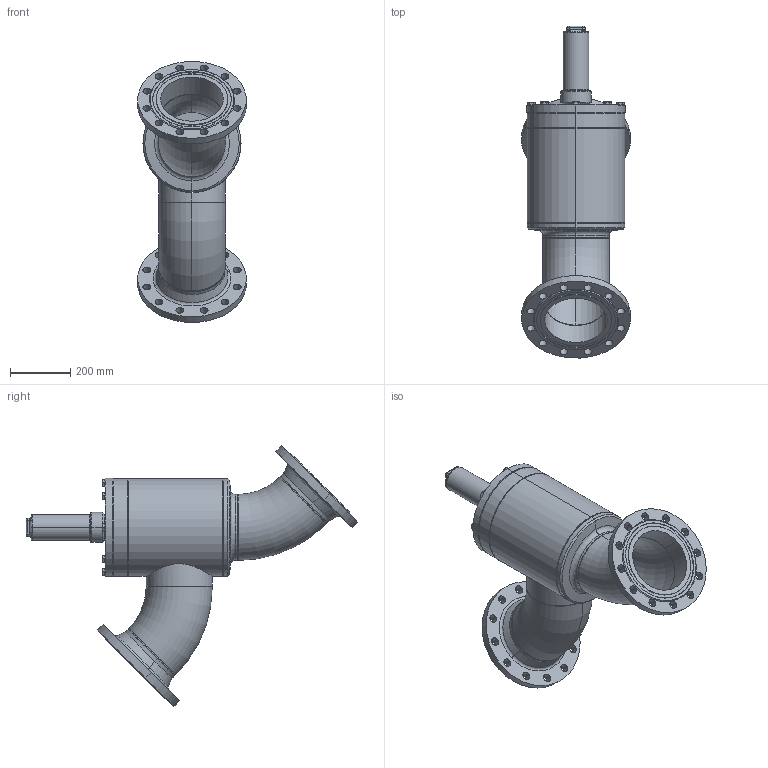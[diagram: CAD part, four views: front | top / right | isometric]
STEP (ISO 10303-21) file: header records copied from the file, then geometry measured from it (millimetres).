
FILE_DESCRIPTION (( 'STEP AP214' ), '1' );
FILE_NAME ('RVA29320C23-DN200_DIN-FL-N_PS25.STEP', '2006-04-28T05:34:59', ( 'Herr Grams' ), ( 'AWP GmbH' ), 'SwSTEP 2.0', 'SolidWorks 2002296', '' );
FILE_SCHEMA (( 'AUTOMOTIVE_DESIGN' ));
Length unit declared in the file: millimetre
Products named in the file (22): RVA29320C23-DN200_DIN-FL-N_PS25; Kappe16402_DN200-350_Standard; RVA29300B23_Deck-Schr-DN200_Standard; Deckel-kpl29300B2-DN200_Standard; bead-deck263-200_Standard; Scheibe f Deckel16300-DN200_Standard; Buchse f Deckel29300-DN200_Standard; Sechskantschraube-DIN933_M16x 45; Gehäuse-kpl16320-DN200_DIN_PS25_Standard; Gehäuse-kpl16300-DN200_R1_Standard; Gehäuse16300-DN200_Standard; Boden16300-DN200_Standard; Kopfstück16300-DN200_Standard; Rohrstutzen-A16300-DN200_R1_Standard; Rohrbogen 45°_Rohrbogen-DN200-45°; bead-DN200-3_Standard; bead-DN200-2_Standard; bead-DN200-1_Standard; bead-DN200-4_Standard; Flansch-DIN2634-Nut_PS25_DIN-Flansch-DN200_PS25-Nut; bead-DN200-8_Standard; bead-DN200-7_Standard
Assembly tree (30 placements, depth 4):
  RVA29320C23-DN200_DIN-FL-N_PS25
    Kappe16402_DN200-350_Standard
    Gehäuse-kpl16320-DN200_DIN_PS25_Standard
      Flansch-DIN2634-Nut_PS25_DIN-Flansch-DN200_PS25-Nut  x2
      bead-DN200-8_Standard
      Gehäuse-kpl16300-DN200_R1_Standard
        bead-DN200-3_Standard
        bead-DN200-1_Standard
        Rohrstutzen-A16300-DN200_R1_Standard
        Boden16300-DN200_Standard
        bead-DN200-2_Standard
        Kopfstück16300-DN200_Standard
        Rohrbogen 45°_Rohrbogen-DN200-45°  x2
        bead-DN200-4_Standard
        Gehäuse16300-DN200_Standard
      bead-DN200-7_Standard
    RVA29300B23_Deck-Schr-DN200_Standard
      Deckel-kpl29300B2-DN200_Standard
        Buchse f Deckel29300-DN200_Standard
        Scheibe f Deckel16300-DN200_Standard
        bead-deck263-200_Standard
      Sechskantschraube-DIN933_M16x 45  x8
Bounding box: 358.63 x 1100.62 x 864.9 mm (x, y, z)
Volume: 17539755.9 mm3; surface area: 2856079.1 mm2
Topology: 26 solids, 26 shells, 517 faces, 1174 edges, 712 vertices
Faces by surface type: cylinder 173, cone 148, plane 136, bspline 36, torus 24
Entity records: 22951 total; most frequent: CARTESIAN_POINT 15299, DIRECTION 1446, ORIENTED_EDGE 1316, EDGE_CURVE 658, AXIS2_PLACEMENT_3D 635, VERTEX_POINT 408, EDGE_LOOP 362, CIRCLE 346
